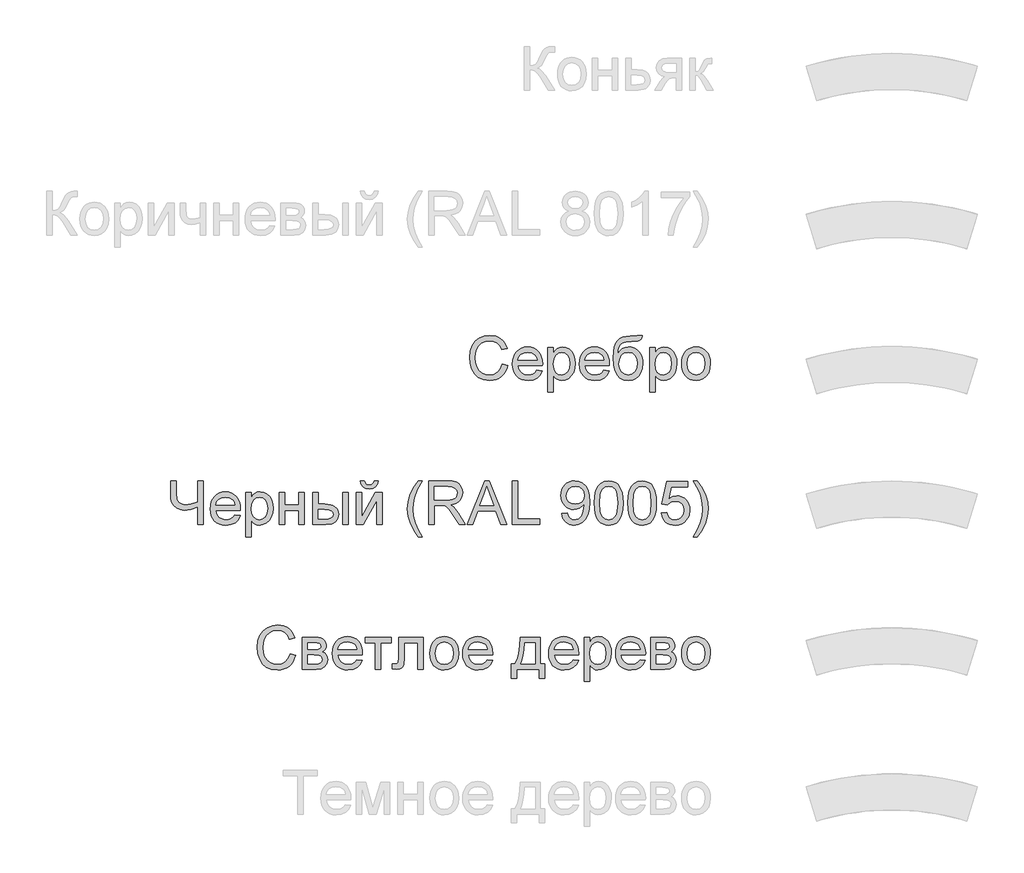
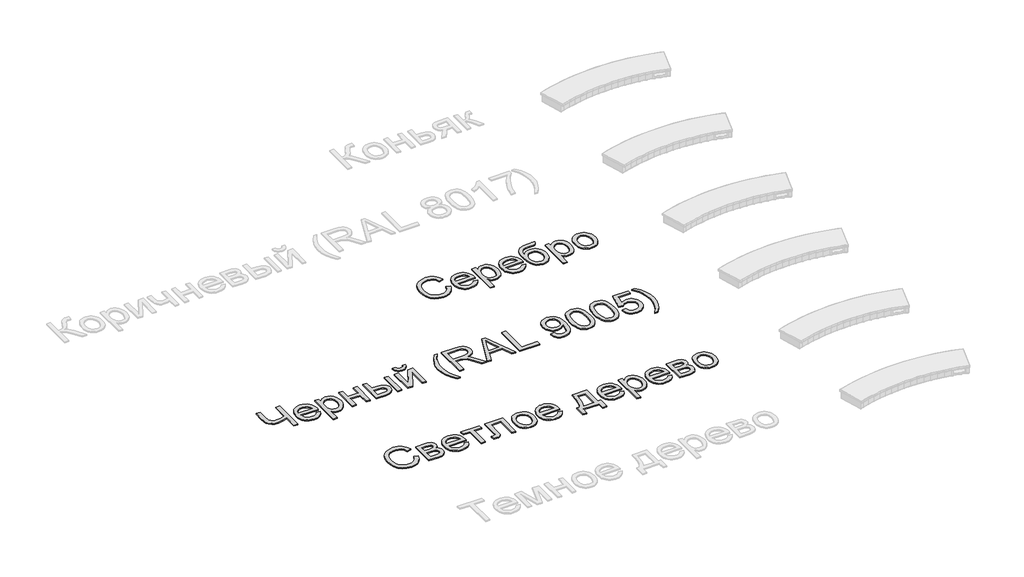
# One storey, part 2 of 9: 3 proxies.
"""IFC4 building model written with IfcOpenShell, lengths in millimetres."""

from ifc_helpers import new_model, si_unit, origin, origin_with_axes, place, context, project, spatial, polyline, outline, extrude, element, save

model = new_model("IFC4")

# Units and contexts
model_context = context("Model", 3, world=origin())
ifc_project = project(units=[si_unit("LENGTHUNIT", "METRE", prefix="MILLI")], contexts=[model_context])

# Site, building, storey
site = spatial("IfcSite", under=ifc_project)
building = spatial("IfcBuilding", under=site)
storey = spatial("IfcBuildingStorey", under=building, Name="Уровень 1", Elevation=0.0)

# Proxies
placement = place(None, origin())
element("IfcBuildingElementProxy", 1, Name="Текст модели 1", ObjectType="Текст модели 1", at=placement, inside=storey, context=model_context, shape_type="SweptSolid", body=[
    extrude(outline(polyline([(-661.3958049, -7619.1831941), (-623.7246886, -7628.8952788), (-631.1788975, -7652.3224641), (-641.1071129, -7672.7927978), (-653.5093347, -7690.3062801), (-668.3855628, -7704.8629108), (-685.4001051, -7716.3063401), (-704.2172692, -7724.4802182), (-724.837055, -7729.384545), (-747.2594626, -7731.0193206), (-790.9546466, -7726.0713078), (-825.6551158, -7711.2272693), (-852.252984, -7687.0022399), (-871.6403652, -7653.9112544), (-883.4769684, -7615.0077334), (-887.4225028, -7573.3450975), (-882.9619336, -7529.4015932), (-869.580226, -7491.4545654), (-847.9763558, -7460.7088276), (-818.8492989, -7438.3691935), (-784.3051795, -7424.7667567), (-746.4501222, -7420.2326111), (-705.1461712, -7426.1003289), (-687.177435, -7433.4349762), (-670.997525, -7443.7034824), (-656.8731556, -7456.6345345), (-645.0710414, -7471.9568196), (-628.4335782, -7509.7750887), (-666.1046945, -7518.7514094), (-679.1645053, -7491.2798214), (-697.0067821, -7472.4350662), (-719.852254, -7461.5365621), (-747.9216502, -7457.9037274), (-780.2768717, -7461.9320352), (-806.8563458, -7474.0169588), (-827.0254762, -7492.8893051), (-840.1496664, -7517.2798814), (-847.3509564, -7544.852637), (-849.7513865, -7573.2715211), (-846.909498, -7608.0731578), (-838.3838328, -7638.165905), (-823.852494, -7662.4001315), (-802.9935849, -7679.6262059), (-777.9868062, -7689.9177047), (-751.011859, -7693.3482043), (-719.5671454, -7688.676103), (-693.3647503, -7674.659799), (-673.581896, -7651.4464451), (-661.3958049, -7619.1831941)])), origin_with_axes(), (0.0, 0.0, 1.0), 10.0),
    extrude(outline(polyline([(-421.6838969, -7660.3859775), (-384.7485446, -7665.0948671), (-398.0566757, -7692.92514), (-419.2926639, -7713.7288668), (-447.9782625, -7726.6967072), (-483.6352249, -7731.0193206), (-507.0095271, -7729.1546188), (-527.8362466, -7723.5605132), (-546.1153832, -7714.2370039), (-561.846937, -7701.1840908), (-574.4974791, -7684.7650575), (-583.5335806, -7665.3431874), (-588.9552416, -7642.9184806), (-590.7624619, -7617.4909369), (-588.9368475, -7591.2011698), (-583.4600042, -7568.0292027), (-574.3319322, -7547.9750354), (-561.5526314, -7531.038668), (-545.8624643, -7517.5833841), (-528.0017935, -7507.9724669), (-507.9706188, -7502.2059167), (-485.7689404, -7500.2837332), (-464.2823326, -7502.2013181), (-444.8512655, -7507.9540728), (-427.475739, -7517.5419973), (-412.1557532, -7530.9650916), (-399.6500646, -7547.8646708), (-390.7174299, -7567.8820499), (-385.3578491, -7591.0172288), (-383.5713222, -7617.2702077), (-383.7920514, -7627.4237508), (-553.0913455, -7627.4237508), (-546.5706372, -7655.6219057), (-531.423096, -7676.3520561), (-509.5617085, -7689.0991673), (-482.8994609, -7693.3482043), (-462.8498921, -7691.3800356), (-445.9641086, -7685.4755296), (-432.2421101, -7675.2668043), (-421.6838969, -7660.3859775)]), holes=[polyline([(-553.0913455, -7589.7526345), (-421.2424385, -7589.7526345), (-426.3376041, -7569.8502185), (-436.3256003, -7555.6131853), (-458.2881554, -7542.3694335), (-485.9160932, -7537.9548496), (-511.3091479, -7541.4773197), (-532.3060128, -7552.04473), (-546.901731, -7568.5166463), (-553.0913455, -7589.7526345)])]), origin_with_axes(), (0.0, 0.0, 1.0), 10.0),
    extrude(outline(polyline([(-345.9002059, -7811.0704428), (-345.9002059, -7504.9926228), (-308.2290896, -7504.9926228), (-308.2290896, -7541.9279751), (-295.9418309, -7523.7086193), (-282.1830443, -7510.6947937), (-266.1433893, -7502.8864984), (-247.0135256, -7500.2837332), (-221.5376974, -7503.925765), (-199.2624426, -7514.8518603), (-181.1258602, -7532.3998314), (-168.0660494, -7555.9074909), (-160.1749806, -7583.6641875), (-157.5446243, -7613.9592698), (-160.5152714, -7646.1765355), (-169.4272128, -7674.9908928), (-183.9953398, -7698.9400106), (-203.9345439, -7716.5615582), (-227.1570949, -7727.40488), (-251.5752623, -7731.0193206), (-268.8933072, -7728.6004965), (-284.3535481, -7721.3440241), (-297.5881028, -7710.3903377), (-308.2290896, -7696.8798715), (-308.2290896, -7811.0704428), (-345.9002059, -7811.0704428)]), holes=[polyline([(-308.2290896, -7617.4173605), (-304.1547965, -7651.1889277), (-291.9319172, -7674.8069518), (-273.8965024, -7688.7128912), (-252.3846027, -7693.3482043), (-230.5232151, -7688.5473443), (-212.0279478, -7674.1447642), (-199.4187924, -7649.6622174), (-195.2157406, -7614.6214573), (-199.3176249, -7581.0338312), (-211.6232776, -7557.0847133), (-229.6311013, -7542.7373155), (-250.8394983, -7537.9548496), (-272.1306688, -7543.0408181), (-290.8282712, -7558.2987239), (-303.878885, -7583.2503202), (-308.2290896, -7617.4173605)])]), origin_with_axes(), (0.0, 0.0, 1.0), 10.0),
    extrude(outline(polyline([(39.7872779, -7660.3859775), (76.7226302, -7665.0948671), (63.414499, -7692.92514), (42.1785108, -7713.7288668), (13.4929123, -7726.6967072), (-22.1640501, -7731.0193206), (-45.5383524, -7729.1546188), (-66.3650718, -7723.5605132), (-84.6442085, -7714.2370039), (-100.3757623, -7701.1840908), (-113.0263044, -7684.7650575), (-122.0624059, -7665.3431874), (-127.4840668, -7642.9184806), (-129.2912871, -7617.4909369), (-127.4656727, -7591.2011698), (-121.9888295, -7568.0292027), (-112.8607575, -7547.9750354), (-100.0814567, -7531.038668), (-84.3912896, -7517.5833841), (-66.5306187, -7507.9724669), (-46.4994441, -7502.2059167), (-24.2977657, -7500.2837332), (-2.8111579, -7502.2013181), (16.6199092, -7507.9540728), (33.9954357, -7517.5419973), (49.3154216, -7530.9650916), (61.8211101, -7547.8646708), (70.7537448, -7567.8820499), (76.1133256, -7591.0172288), (77.8998526, -7617.2702077), (77.6791234, -7627.4237508), (-91.6201708, -7627.4237508), (-85.0994624, -7655.6219057), (-69.9519213, -7676.3520561), (-48.0905337, -7689.0991673), (-21.4282861, -7693.3482043), (-1.3787174, -7691.3800356), (15.5070662, -7685.4755296), (29.2290646, -7675.2668043), (39.7872779, -7660.3859775)]), holes=[polyline([(-91.6201708, -7589.7526345), (40.2287363, -7589.7526345), (35.1335706, -7569.8502185), (25.1455745, -7555.6131853), (3.1830194, -7542.3694335), (-24.4449185, -7537.9548496), (-49.8379732, -7541.4773197), (-70.8348381, -7552.04473), (-85.4305562, -7568.5166463), (-91.6201708, -7589.7526345)])]), origin_with_axes(), (0.0, 0.0, 1.0), 10.0),
    extrude(outline(polyline([(270.9643236, -7420.2326111), (303.9265504, -7420.2326111), (300.3580951, -7438.1392672), (294.2144657, -7449.6263825), (285.6979976, -7456.4230024), (275.0110256, -7460.2581722), (228.8786234, -7462.6126169), (190.5729107, -7464.7831207), (166.7433544, -7471.294632), (152.4879271, -7482.5886093), (142.9046011, -7499.1065109), (137.2668096, -7520.9770955), (134.8479854, -7548.3291218), (149.9955266, -7527.2862717), (167.4791184, -7512.2766863), (187.317155, -7503.2819715), (209.5280305, -7500.2837332), (230.0512473, -7502.1898218), (248.725857, -7507.9080876), (265.5518598, -7517.4385305), (280.5292555, -7530.7811506), (292.8257112, -7547.3749279), (301.6088938, -7566.6588422), (306.8788034, -7588.6328936), (308.63544, -7613.2970822), (305.149758, -7649.2575472), (294.6927123, -7678.1178897), (279.4532007, -7700.5494944), (261.620121, -7717.2237458), (239.0321665, -7727.5704269), (209.5280305, -7731.0193206), (175.526537, -7726.5771455), (150.0415118, -7713.2506203), (131.2887271, -7692.9987164), (117.4839553, -7667.7804056), (108.9858812, -7629.8057867), (106.1531898, -7571.2849583), (107.9397167, -7531.6203814), (113.2992976, -7499.0053433), (122.2319323, -7473.4398439), (134.7376208, -7454.9238832), (150.9497205, -7441.8065908), (171.0015885, -7432.4370963), (194.8932248, -7426.8153995), (222.6246295, -7424.9415006), (264.5631769, -7424.095372), (270.9643236, -7420.2326111)]), holes=[polyline([(270.9643236, -7612.1198598), (266.8808335, -7582.477768), (254.6303631, -7558.7401823), (234.9486763, -7543.1511827), (208.5715373, -7537.9548496), (181.0723581, -7543.4454883), (169.9853145, -7550.3087868), (160.6733015, -7559.9174047), (148.036555, -7585.5679768), (143.8243061, -7618.5945829), (148.4780134, -7650.6095135), (162.4391351, -7674.107976), (183.2244678, -7688.5381472), (208.3508081, -7693.3482043), (233.605907, -7687.7839891), (253.6002935, -7671.0913436), (266.6233161, -7645.2200423), (270.9643236, -7612.1198598)])]), origin_with_axes(), (0.0, 0.0, 1.0), 10.0),
    extrude(outline(polyline([(355.7243353, -7811.0704428), (355.7243353, -7504.9926228), (393.3954516, -7504.9926228), (393.3954516, -7541.9279751), (405.6827103, -7523.7086193), (419.4414969, -7510.6947937), (435.4811519, -7502.8864984), (454.6110156, -7500.2837332), (480.0868438, -7503.925765), (502.3620986, -7514.8518603), (520.498681, -7532.3998314), (533.5584918, -7555.9074909), (541.4495606, -7583.6641875), (544.0799169, -7613.9592698), (541.1092698, -7646.1765355), (532.1973284, -7674.9908928), (517.6292014, -7698.9400106), (497.6899973, -7716.5615582), (474.4674463, -7727.40488), (450.0492789, -7731.0193206), (432.731234, -7728.6004965), (417.2709931, -7721.3440241), (404.0364384, -7710.3903377), (393.3954516, -7696.8798715), (393.3954516, -7811.0704428), (355.7243353, -7811.0704428)]), holes=[polyline([(393.3954516, -7617.4173605), (397.4697447, -7651.1889277), (409.692624, -7674.8069518), (427.7280388, -7688.7128912), (449.2399385, -7693.3482043), (471.1013261, -7688.5473443), (489.5965934, -7674.1447642), (502.2057488, -7649.6622174), (506.4088006, -7614.6214573), (502.3069163, -7581.0338312), (490.0012636, -7557.0847133), (471.9934399, -7542.7373155), (450.7850429, -7537.9548496), (429.4938724, -7543.0408181), (410.79627, -7558.2987239), (397.7456562, -7583.2503202), (393.3954516, -7617.4173605)])]), origin_with_axes(), (0.0, 0.0, 1.0), 10.0),
    extrude(outline(polyline([(577.0421436, -7615.6515269), (579.0792902, -7586.988921), (585.1907298, -7562.2902435), (595.3764626, -7541.5554946), (609.6364884, -7524.7846741), (623.9930833, -7514.0655125), (639.8396002, -7506.4089685), (657.1760392, -7501.815042), (676.0024003, -7500.2837332), (696.7854338, -7502.1484351), (715.577306, -7507.7425407), (732.3780168, -7517.06605), (747.1875664, -7530.1189631), (759.2747892, -7546.4598214), (767.9085198, -7565.6471667), (773.0887581, -7587.680999), (774.8155042, -7612.5613182), (771.7620837, -7650.6187106), (762.601822, -7679.5894177), (747.6014336, -7701.2852584), (727.0276331, -7717.5180514), (702.5910715, -7727.6440033), (676.0024003, -7731.0193206), (654.9158642, -7729.1615165), (635.9492481, -7723.5881043), (619.102552, -7714.2990839), (604.3757759, -7701.2944554), (592.4173118, -7684.7949479), (583.8755517, -7665.0212907), (578.7504957, -7641.9734837), (577.0421436, -7615.6515269)]), holes=[polyline([(614.7132599, -7615.5779505), (619.0726616, -7649.6714144), (632.1508665, -7673.9608232), (651.8325533, -7688.501359), (676.0024003, -7693.3482043), (700.0618828, -7688.4737679), (719.7067814, -7673.8504586), (732.7849863, -7649.2391531), (737.1443879, -7614.4007281), (732.7573951, -7581.3005456), (719.5964168, -7557.3422307), (699.9239271, -7542.8016948), (676.0024003, -7537.9548496), (651.8325533, -7542.7833007), (632.1508665, -7557.2686543), (619.0726616, -7581.5028807), (614.7132599, -7615.5779505)])]), origin_with_axes(), (0.0, 0.0, 1.0), 10.0),
])
element("IfcBuildingElementProxy", 2, Name="Текст модели 1", ObjectType="Текст модели 1", at=placement, inside=storey, context=model_context, shape_type="SweptSolid", body=[
    extrude(outline(polyline([(-2723.8894227, -8726.3104311), (-2761.560539, -8726.3104311), (-2761.560539, -8605.6451367), (-2811.5189139, -8621.9790972), (-2854.855413, -8627.4237508), (-2884.2215932, -8623.6989456), (-2909.9273476, -8612.52453), (-2929.8481577, -8595.6203523), (-2941.8595048, -8574.7062609), (-2947.9019666, -8548.2463484), (-2949.9161205, -8514.7047075), (-2949.9161205, -8424.9415006), (-2912.2450042, -8424.9415006), (-2912.2450042, -8509.6279359), (-2907.7200557, -8550.3616698), (-2902.06387, -8564.4170613), (-2894.1452101, -8574.2648025), (-2874.2244, -8585.8806765), (-2850.6615582, -8589.7526345), (-2807.1963005, -8585.0805331), (-2761.560539, -8571.0642291), (-2761.560539, -8424.9415006), (-2723.8894227, -8424.9415006), (-2723.8894227, -8726.3104311)])), origin_with_axes(), (0.0, 0.0, 1.0), 10.0),
    extrude(outline(polyline([(-2507.7219623, -8660.3859775), (-2470.78661, -8665.0948671), (-2484.0947412, -8692.92514), (-2505.3307294, -8713.7288668), (-2534.0163279, -8726.6967072), (-2569.6732903, -8731.0193206), (-2593.0475926, -8729.1546188), (-2613.874312, -8723.5605132), (-2632.1534487, -8714.2370039), (-2647.8850025, -8701.1840908), (-2660.5355446, -8684.7650575), (-2669.5716461, -8665.3431874), (-2674.993307, -8642.9184806), (-2676.8005273, -8617.4909369), (-2674.9749129, -8591.2011698), (-2669.4980697, -8568.0292027), (-2660.3699977, -8547.9750354), (-2647.5906969, -8531.038668), (-2631.9005298, -8517.5833841), (-2614.0398589, -8507.9724669), (-2594.0086843, -8502.2059167), (-2571.8070059, -8500.2837332), (-2550.3203981, -8502.2013181), (-2530.889331, -8507.9540728), (-2513.5138045, -8517.5419973), (-2498.1938186, -8530.9650916), (-2485.6881301, -8547.8646708), (-2476.7554954, -8567.8820499), (-2471.3959146, -8591.0172288), (-2469.6093876, -8617.2702077), (-2469.8301168, -8627.4237508), (-2639.129411, -8627.4237508), (-2632.6087026, -8655.6219057), (-2617.4611615, -8676.3520561), (-2595.5997739, -8689.0991673), (-2568.9375263, -8693.3482043), (-2548.8879576, -8691.3800356), (-2532.002174, -8685.4755296), (-2518.2801756, -8675.2668043), (-2507.7219623, -8660.3859775)]), holes=[polyline([(-2639.129411, -8589.7526345), (-2507.2805039, -8589.7526345), (-2512.3756696, -8569.8502185), (-2522.3636657, -8555.6131853), (-2544.3262208, -8542.3694335), (-2571.9541587, -8537.9548496), (-2597.3472134, -8541.4773197), (-2618.3440783, -8552.04473), (-2632.9397964, -8568.5166463), (-2639.129411, -8589.7526345)])]), origin_with_axes(), (0.0, 0.0, 1.0), 10.0),
    extrude(outline(polyline([(-2431.9382713, -8811.0704428), (-2431.9382713, -8504.9926228), (-2394.267155, -8504.9926228), (-2394.267155, -8541.9279751), (-2381.9798964, -8523.7086193), (-2368.2211098, -8510.6947937), (-2352.1814548, -8502.8864984), (-2333.051591, -8500.2837332), (-2307.5757628, -8503.925765), (-2285.300508, -8514.8518603), (-2267.1639257, -8532.3998314), (-2254.1041148, -8555.9074909), (-2246.213046, -8583.6641875), (-2243.5826898, -8613.9592698), (-2246.5533369, -8646.1765355), (-2255.4652782, -8674.9908928), (-2270.0334052, -8698.9400106), (-2289.9726094, -8716.5615582), (-2313.1951603, -8727.40488), (-2337.6133278, -8731.0193206), (-2354.9313727, -8728.6004965), (-2370.3916135, -8721.3440241), (-2383.6261683, -8710.3903377), (-2394.267155, -8696.8798715), (-2394.267155, -8811.0704428), (-2431.9382713, -8811.0704428)]), holes=[polyline([(-2394.267155, -8617.4173605), (-2390.1928619, -8651.1889277), (-2377.9699826, -8674.8069518), (-2359.9345678, -8688.7128912), (-2338.4226681, -8693.3482043), (-2316.5612806, -8688.5473443), (-2298.0660133, -8674.1447642), (-2285.4568579, -8649.6622174), (-2281.2538061, -8614.6214573), (-2285.3556903, -8581.0338312), (-2297.6613431, -8557.0847133), (-2315.6691667, -8542.7373155), (-2336.8775638, -8537.9548496), (-2358.1687342, -8543.0408181), (-2376.8663366, -8558.2987239), (-2389.9169504, -8583.2503202), (-2394.267155, -8617.4173605)])]), origin_with_axes(), (0.0, 0.0, 1.0), 10.0),
    extrude(outline(polyline([(-2201.2026839, -8504.9926228), (-2163.5315676, -8504.9926228), (-2163.5315676, -8589.7526345), (-2064.6448873, -8589.7526345), (-2064.6448873, -8504.9926228), (-2026.973771, -8504.9926228), (-2026.973771, -8726.3104311), (-2064.6448873, -8726.3104311), (-2064.6448873, -8627.4237508), (-2163.5315676, -8627.4237508), (-2163.5315676, -8726.3104311), (-2201.2026839, -8726.3104311), (-2201.2026839, -8504.9926228)])), origin_with_axes(), (0.0, 0.0, 1.0), 10.0),
    extrude(outline(polyline([(-1763.2759569, -8504.9926228), (-1725.6048406, -8504.9926228), (-1725.6048406, -8726.3104311), (-1763.2759569, -8726.3104311), (-1763.2759569, -8504.9926228)])), origin_with_axes(), (0.0, 0.0, 1.0), 10.0),
    extrude(outline(polyline([(-1970.4670966, -8504.9926228), (-1932.7959803, -8504.9926228), (-1932.7959803, -8585.0437449), (-1886.2221197, -8585.0437449), (-1845.9666323, -8589.7618315), (-1829.7499341, -8595.6594398), (-1816.1405996, -8603.9160913), (-1805.3731534, -8614.2466776), (-1797.6821205, -8626.36609), (-1793.0675007, -8640.2743287), (-1791.5292941, -8655.9713936), (-1796.6888391, -8682.9279468), (-1812.167474, -8705.6722512), (-1824.0293691, -8714.7014549), (-1838.9768744, -8721.1508861), (-1878.1287158, -8726.3104311), (-1970.4670966, -8726.3104311), (-1970.4670966, -8504.9926228)]), holes=[polyline([(-1932.7959803, -8688.6393148), (-1894.0947944, -8688.6393148), (-1864.0940177, -8686.6619491), (-1844.1364194, -8680.7298519), (-1832.9344127, -8670.6039), (-1829.2004104, -8656.04497), (-1831.9687224, -8643.7393173), (-1840.2736585, -8632.8684043), (-1858.0331618, -8625.253247), (-1889.1651756, -8622.7148612), (-1932.7959803, -8622.7148612), (-1932.7959803, -8688.6393148)])]), origin_with_axes(), (0.0, 0.0, 1.0), 10.0),
    extrude(outline(polyline([(-1546.6670381, -8424.9415006), (-1518.4137009, -8424.9415006), (-1524.4929509, -8449.0653625), (-1536.6974361, -8466.8432599), (-1554.4753335, -8477.7969463), (-1577.2748201, -8481.4481751), (-1602.0148843, -8477.8245374), (-1621.1999303, -8466.9536245), (-1634.3149235, -8449.2033182), (-1640.8448289, -8424.9415006), (-1612.5914917, -8424.9415006), (-1608.6183661, -8437.3483209), (-1601.9964902, -8446.1682918), (-1592.6890757, -8451.4382013), (-1580.6593345, -8453.1948379), (-1567.0844889, -8451.4933836), (-1557.2620396, -8446.389021), (-1550.6401637, -8437.6242324), (-1546.6670381, -8424.9415006)])), origin_with_axes(), (0.0, 0.0, 1.0), 10.0),
    extrude(outline(polyline([(-1669.0981661, -8504.9926228), (-1631.4270498, -8504.9926228), (-1631.4270498, -8673.7768822), (-1538.8679398, -8504.9926228), (-1490.1603637, -8504.9926228), (-1490.1603637, -8726.3104311), (-1527.83148, -8726.3104311), (-1527.83148, -8558.5562413), (-1619.8019788, -8726.3104311), (-1669.0981661, -8726.3104311), (-1669.0981661, -8504.9926228)])), origin_with_axes(), (0.0, 0.0, 1.0), 10.0),
    extrude(outline(polyline([(-1240.5892181, -8811.0704428), (-1269.7806545, -8770.1067826), (-1294.0792602, -8722.7051875), (-1310.4684031, -8671.16492), (-1315.9314507, -8617.7852425), (-1311.8479606, -8570.9722586), (-1299.5974902, -8526.1826257), (-1275.2804903, -8475.4516986), (-1240.5892181, -8424.9415006), (-1212.3358809, -8424.9415006), (-1247.578976, -8484.6119603), (-1268.768979, -8542.4430099), (-1275.8874956, -8580.1325203), (-1278.2603344, -8618.0059717), (-1274.1400561, -8666.2996806), (-1261.7792211, -8714.5749954), (-1241.1778293, -8762.8319162), (-1212.3358809, -8811.0704428), (-1240.5892181, -8811.0704428)])), origin_with_axes(), (0.0, 0.0, 1.0), 10.0),
    extrude(outline(polyline([(-1169.9558751, -8726.3104311), (-1169.9558751, -8424.9415006), (-1040.0935308, -8424.9415006), (-1005.1907265, -8426.9740487), (-979.7976718, -8433.0716927), (-961.2380251, -8444.3288818), (-946.835445, -8461.8400647), (-937.5924099, -8483.5542995), (-934.5113981, -8507.420644), (-939.6157608, -8537.108721), (-954.9288489, -8561.7200264), (-966.528628, -8571.7494093), (-980.9105148, -8579.7646383), (-1018.0206111, -8589.7526345), (-996.6098789, -8605.8658659), (-966.0756733, -8644.6406282), (-915.8229928, -8726.3104311), (-959.6009502, -8726.3104311), (-998.8171709, -8663.8440683), (-1027.1440845, -8622.494132), (-1047.0465005, -8602.9595981), (-1064.9623536, -8595.7858992), (-1086.8145442, -8594.461524), (-1132.2847588, -8594.461524), (-1132.2847588, -8726.3104311), (-1169.9558751, -8726.3104311)]), holes=[polyline([(-1132.2847588, -8556.7904077), (-1047.9662055, -8556.7904077), (-1023.7503731, -8555.4568355), (-1004.9608002, -8551.4561188), (-990.8157375, -8544.5215432), (-980.5334357, -8534.3863942), (-974.2702448, -8522.1267267), (-972.1825145, -8508.8185955), (-976.1648371, -8490.4428899), (-988.1118048, -8475.6356396), (-1008.6672113, -8465.8683726), (-1038.47485, -8462.6126169), (-1132.2847588, -8462.6126169), (-1132.2847588, -8556.7904077)])]), origin_with_axes(), (0.0, 0.0, 1.0), 10.0),
    extrude(outline(polyline([(-903.682887, -8726.3104311), (-783.3854745, -8424.9415006), (-751.3061645, -8424.9415006), (-631.0087521, -8726.3104311), (-670.813584, -8726.3104311), (-705.3209152, -8632.1326403), (-829.4443003, -8632.1326403), (-863.8780551, -8726.3104311), (-903.682887, -8726.3104311)]), holes=[polyline([(-815.6119373, -8594.461524), (-719.0797018, -8594.461524), (-746.229393, -8520.3700902), (-767.3458195, -8462.6126169), (-786.1078013, -8513.8953671), (-815.6119373, -8594.461524)])]), origin_with_axes(), (0.0, 0.0, 1.0), 10.0),
    extrude(outline(polyline([(-590.7624619, -8726.3104311), (-590.7624619, -8424.9415006), (-553.0913455, -8424.9415006), (-553.0913455, -8688.6393148), (-402.4068803, -8688.6393148), (-402.4068803, -8726.3104311), (-590.7624619, -8726.3104311)])), origin_with_axes(), (0.0, 0.0, 1.0), 10.0),
    extrude(outline(polyline([(-251.7224151, -8650.9681985), (-214.0512988, -8646.2593089), (-207.6133639, -8667.6424499), (-197.128727, -8682.2013799), (-182.8549056, -8690.5614982), (-165.049417, -8693.3482043), (-149.0741414, -8691.5547796), (-134.5519996, -8686.1745054), (-122.4854702, -8677.795993), (-113.8770315, -8667.0078535), (-101.5529847, -8634.2663559), (-96.1083311, -8590.5619749), (-96.3290603, -8583.204335), (-109.3796741, -8599.1336253), (-126.4585957, -8611.7519778), (-146.3334205, -8619.9741404), (-167.7717438, -8622.7148612), (-185.6669036, -8621.0409982), (-202.1227251, -8616.0194089), (-217.1392083, -8607.6500935), (-230.7163532, -8595.933052), (-241.9666444, -8581.4798881), (-250.0025668, -8564.9022057), (-254.8241202, -8546.2000048), (-256.4313046, -8525.3732853), (-254.7459452, -8503.8521886), (-249.6898671, -8484.5383839), (-241.2630701, -8467.4318711), (-229.4655544, -8452.5326503), (-215.1296529, -8440.4615223), (-199.0876986, -8431.839288), (-181.3396916, -8426.6659475), (-161.8856319, -8424.9415006), (-133.7886445, -8428.877838), (-108.2116488, -8440.68685), (-86.8193108, -8459.7799256), (-71.2762965, -8485.5684534), (-61.8125321, -8521.2162188), (-58.657944, -8569.8870067), (-61.8033351, -8621.4916536), (-71.2395083, -8661.3792589), (-86.8836901, -8691.3524445), (-108.6531072, -8713.2138321), (-135.6096604, -8726.5679485), (-166.8152506, -8731.0193206), (-199.0233193, -8725.7678051), (-224.7198767, -8710.0132587), (-242.6909121, -8684.7489627), (-251.7224151, -8650.9681985)]), holes=[polyline([(-96.3290603, -8524.4903685), (-100.3941564, -8498.9593581), (-112.5894445, -8479.3144595), (-131.5169732, -8466.7880776), (-155.7787908, -8462.6126169), (-180.9419192, -8467.1099743), (-201.1018526, -8480.6020465), (-214.3456044, -8501.2494235), (-218.7601883, -8527.2126953), (-214.5847277, -8550.4904285), (-202.0583458, -8568.9673017), (-182.3950531, -8581.0246341), (-156.8088603, -8585.0437449), (-132.7401808, -8581.0246341), (-113.3619967, -8568.9673017), (-100.5872944, -8549.8098468), (-96.3290603, -8524.4903685)])]), origin_with_axes(), (0.0, 0.0, 1.0), 10.0),
    extrude(outline(polyline([(-25.6957173, -8578.053987), (-22.9274052, -8529.8154604), (-14.6224692, -8491.3442008), (-0.8636826, -8462.0515969), (18.2661812, -8441.3490376), (42.9050778, -8429.0433849), (73.190963, -8424.9415006), (96.4043169, -8427.3695218), (117.1896497, -8434.6535853), (134.5720739, -8446.5085826), (147.5767025, -8462.6494051), (157.3991517, -8482.9380972), (165.2350382, -8507.236703), (170.3669921, -8538.0928053), (172.0776433, -8578.053987), (169.3369225, -8626.0166021), (161.1147599, -8664.3958913), (147.4387467, -8693.7160863), (128.3364741, -8714.501419), (103.6423952, -8726.8898452), (73.190963, -8731.0193206), (52.4424185, -8729.2258959), (34.0483188, -8723.8456217), (18.0086638, -8714.8784981), (4.3234535, -8702.324525), (-8.8099337, -8679.6308044), (-18.1909246, -8651.3544746), (-23.8195191, -8617.4955354), (-25.6957173, -8578.053987)]), holes=[polyline([(11.975399, -8577.9804106), (16.389983, -8637.237003), (21.9082129, -8657.5050017), (29.6337348, -8671.532802), (49.3522098, -8687.8943537), (73.190963, -8693.3482043), (97.0297163, -8687.8759596), (116.7481913, -8671.4592256), (124.4737132, -8657.4084326), (129.9919431, -8637.1450325), (134.406527, -8577.9804106), (130.1390959, -8520.0573905), (124.804807, -8499.8560704), (117.3368025, -8485.494877), (97.6551157, -8468.333182), (72.7495046, -8462.6126169), (49.1682688, -8467.6526003), (30.222346, -8482.7725503), (22.2393067, -8498.4075351), (16.5371358, -8519.4871734), (11.975399, -8577.9804106)])]), origin_with_axes(), (0.0, 0.0, 1.0), 10.0),
    extrude(outline(polyline([(205.0398701, -8578.053987), (207.8081821, -8529.8154604), (216.1131182, -8491.3442008), (229.8719048, -8462.0515969), (249.0017685, -8441.3490376), (273.6406652, -8429.0433849), (303.9265504, -8424.9415006), (327.1399043, -8427.3695218), (347.925237, -8434.6535853), (365.3076613, -8446.5085826), (378.3122898, -8462.6494051), (388.1347391, -8482.9380972), (395.9706256, -8507.236703), (401.1025794, -8538.0928053), (402.8132307, -8578.053987), (400.0725099, -8626.0166021), (391.8503473, -8664.3958913), (378.1743341, -8693.7160863), (359.0720615, -8714.501419), (334.3779826, -8726.8898452), (303.9265504, -8731.0193206), (283.1780059, -8729.2258959), (264.7839061, -8723.8456217), (248.7442511, -8714.8784981), (235.0590409, -8702.324525), (221.9256537, -8679.6308044), (212.5446628, -8651.3544746), (206.9160683, -8617.4955354), (205.0398701, -8578.053987)]), holes=[polyline([(242.7109864, -8577.9804106), (247.1255704, -8637.237003), (252.6438003, -8657.5050017), (260.3693222, -8671.532802), (280.0877971, -8687.8943537), (303.9265504, -8693.3482043), (327.7653037, -8687.8759596), (347.4837786, -8671.4592256), (355.2093005, -8657.4084326), (360.7275305, -8637.1450325), (365.1421144, -8577.9804106), (360.8746833, -8520.0573905), (355.5403943, -8499.8560704), (348.0723898, -8485.494877), (328.3907031, -8468.333182), (303.485092, -8462.6126169), (279.9038561, -8467.6526003), (260.9579334, -8482.7725503), (252.9748941, -8498.4075351), (247.2727232, -8519.4871734), (242.7109864, -8577.9804106)])]), origin_with_axes(), (0.0, 0.0, 1.0), 10.0),
    extrude(outline(polyline([(435.7754575, -8646.2593089), (473.4465738, -8641.5504194), (480.3627553, -8664.165965), (492.4292847, -8680.3619699), (509.5909798, -8690.1016457), (531.7926582, -8693.3482043), (558.7951967, -8688.8324528), (579.0287064, -8675.2851984), (591.6654529, -8654.2699394), (595.8777018, -8627.3501744), (591.9321674, -8602.0031049), (580.0955642, -8582.6157238), (560.2759217, -8570.310071), (532.3812694, -8566.2081868), (514.1067313, -8567.8452617), (499.3086781, -8572.7564863), (478.1554633, -8589.7526345), (440.484347, -8585.0437449), (473.4465738, -8429.6503902), (619.4221495, -8429.6503902), (619.4221495, -8467.3215065), (503.907203, -8467.3215065), (487.7939716, -8550.3156846), (514.7045396, -8533.981724), (542.9026945, -8528.5370705), (561.2485097, -8530.2247291), (578.0998044, -8535.2877051), (593.4565784, -8543.7259984), (607.3188318, -8555.5396089), (618.7944508, -8570.0065684), (626.9913215, -8586.4049083), (631.909444, -8604.7346287), (633.5488181, -8624.9957296), (627.6443121, -8662.6668459), (620.2636795, -8679.460659), (609.930794, -8694.8933087), (594.2774151, -8710.6984389), (576.012074, -8721.9878176), (555.1347708, -8728.7614449), (531.6455054, -8731.0193206), (494.6457738, -8725.2159821), (478.967103, -8717.9618091), (465.1692289, -8707.8059667), (453.6890114, -8695.2542929), (444.9633103, -8680.8126253), (435.7754575, -8646.2593089)])), origin_with_axes(), (0.0, 0.0, 1.0), 10.0),
    extrude(outline(polyline([(685.346603, -8811.0704428), (657.0932658, -8811.0704428), (685.9352142, -8762.8319162), (706.5366059, -8714.5749954), (718.897441, -8666.2996806), (723.0177193, -8618.0059717), (720.6448805, -8580.4084318), (713.5263638, -8543.1051975), (704.5316491, -8513.5458792), (692.5570901, -8485.2005714), (657.0932658, -8424.9415006), (685.346603, -8424.9415006), (720.0378752, -8475.4516986), (744.354875, -8526.1826257), (756.6053455, -8570.9722586), (760.6888356, -8617.7852425), (755.1981968, -8671.16492), (738.7262805, -8722.7051875), (714.4000836, -8770.1067826), (685.346603, -8811.0704428)])), origin_with_axes(), (0.0, 0.0, 1.0), 10.0),
])
element("IfcBuildingElementProxy", 3, Name="Текст модели 1", ObjectType="Текст модели 1", at=placement, inside=storey, context=model_context, shape_type="SweptSolid", body=[
    extrude(outline(polyline([(-2125.8604513, -9619.1831941), (-2088.189335, -9628.8952788), (-2095.6435439, -9652.3224641), (-2105.5717593, -9672.7927978), (-2117.9739811, -9690.3062801), (-2132.8502092, -9704.8629108), (-2149.8647515, -9716.3063401), (-2168.6819156, -9724.4802182), (-2189.3017014, -9729.384545), (-2211.724109, -9731.0193206), (-2255.419293, -9726.0713078), (-2290.1197622, -9711.2272693), (-2316.7176304, -9687.0022399), (-2336.1050116, -9653.9112544), (-2347.9416148, -9615.0077334), (-2351.8871492, -9573.3450975), (-2347.42658, -9529.4015932), (-2334.0448724, -9491.4545654), (-2312.4410022, -9460.7088276), (-2283.3139453, -9438.3691935), (-2248.7698259, -9424.7667567), (-2210.9147686, -9420.2326111), (-2169.6108176, -9426.1003289), (-2151.6420814, -9433.4349762), (-2135.4621714, -9443.7034824), (-2121.337802, -9456.6345345), (-2109.5356878, -9471.9568196), (-2092.8982246, -9509.7750887), (-2130.5693409, -9518.7514094), (-2143.6291517, -9491.2798214), (-2161.4714285, -9472.4350662), (-2184.3169004, -9461.5365621), (-2212.3862966, -9457.9037274), (-2244.7415181, -9461.9320352), (-2271.3209922, -9474.0169588), (-2291.4901226, -9492.8893051), (-2304.6143128, -9517.2798814), (-2311.8156028, -9544.852637), (-2314.2160329, -9573.2715211), (-2311.3741444, -9608.0731578), (-2302.8484792, -9638.165905), (-2288.3171404, -9662.4001315), (-2267.4582313, -9679.6262059), (-2242.4514526, -9689.9177047), (-2215.4765054, -9693.3482043), (-2184.0317918, -9688.676103), (-2157.8293967, -9674.659799), (-2138.0465424, -9651.4464451), (-2125.8604513, -9619.1831941)])), origin_with_axes(), (0.0, 0.0, 1.0), 10.0),
    extrude(outline(polyline([(-2041.1004396, -9504.9926228), (-1958.1062615, -9504.9926228), (-1931.4256198, -9506.2526186), (-1912.5992587, -9510.0326061), (-1898.7485016, -9517.1695168), (-1886.9946719, -9528.5002823), (-1878.9656473, -9543.2615473), (-1876.2893058, -9560.6899569), (-1877.9079866, -9574.733852), (-1882.7640289, -9586.8463667), (-1890.8758269, -9597.0826832), (-1902.2617747, -9605.4979839), (-1888.319047, -9613.3246733), (-1876.9514934, -9625.9154346), (-1869.3915184, -9642.2769863), (-1866.8715267, -9661.4160471), (-1873.2542793, -9690.1292369), (-1888.4294116, -9710.3443525), (-1912.4521059, -9722.3189114), (-1945.3775445, -9726.3104311), (-2041.1004396, -9726.3104311), (-2041.1004396, -9504.9926228)]), holes=[polyline([(-2003.4293233, -9688.6393148), (-1957.2233447, -9688.6393148), (-1932.0418222, -9686.9378605), (-1916.2412905, -9681.8334979), (-1907.7616105, -9672.5536745), (-1904.542643, -9658.3258384), (-1906.1521268, -9648.8988622), (-1910.9805779, -9640.189256), (-1918.3934001, -9633.3742421), (-1927.7559969, -9629.6310427), (-1960.9021647, -9627.4237508), (-2003.4293233, -9627.4237508), (-2003.4293233, -9688.6393148)]), polyline([(-2003.4293233, -9589.7526345), (-1966.1996654, -9589.7526345), (-1935.4815188, -9587.8396481), (-1920.5455098, -9580.1877026), (-1915.606694, -9573.8601323), (-1913.9604221, -9566.3553396), (-1916.8482958, -9555.1165446), (-1925.5119168, -9547.8876634), (-1941.1652956, -9543.9697202), (-1965.022443, -9542.6637391), (-2003.4293233, -9542.6637391), (-2003.4293233, -9589.7526345)])]), origin_with_axes(), (0.0, 0.0, 1.0), 10.0),
    extrude(outline(polyline([(-1664.830735, -9660.3859775), (-1627.8953827, -9665.0948671), (-1641.2035138, -9692.92514), (-1662.439502, -9713.7288668), (-1691.1251006, -9726.6967072), (-1726.782063, -9731.0193206), (-1750.1563652, -9729.1546188), (-1770.9830847, -9723.5605132), (-1789.2622213, -9714.2370039), (-1804.9937751, -9701.1840908), (-1817.6443172, -9684.7650575), (-1826.6804188, -9665.3431874), (-1832.1020797, -9642.9184806), (-1833.9093, -9617.4909369), (-1832.0836856, -9591.2011698), (-1826.6068424, -9568.0292027), (-1817.4787703, -9547.9750354), (-1804.6994695, -9531.038668), (-1789.0093024, -9517.5833841), (-1771.1486316, -9507.9724669), (-1751.1174569, -9502.2059167), (-1728.9157785, -9500.2837332), (-1707.4291708, -9502.2013181), (-1687.9981036, -9507.9540728), (-1670.6225771, -9517.5419973), (-1655.3025913, -9530.9650916), (-1642.7969027, -9547.8646708), (-1633.864268, -9567.8820499), (-1628.5046872, -9591.0172288), (-1626.7181603, -9617.2702077), (-1626.9388895, -9627.4237508), (-1796.2381836, -9627.4237508), (-1789.7174753, -9655.6219057), (-1774.5699341, -9676.3520561), (-1752.7085466, -9689.0991673), (-1726.046299, -9693.3482043), (-1705.9967302, -9691.3800356), (-1689.1109467, -9685.4755296), (-1675.3889482, -9675.2668043), (-1664.830735, -9660.3859775)]), holes=[polyline([(-1796.2381836, -9589.7526345), (-1664.3892766, -9589.7526345), (-1669.4844422, -9569.8502185), (-1679.4724384, -9555.6131853), (-1701.4349935, -9542.3694335), (-1729.0629313, -9537.9548496), (-1754.455986, -9541.4773197), (-1775.4528509, -9552.04473), (-1790.0485691, -9568.5166463), (-1796.2381836, -9589.7526345)])]), origin_with_axes(), (0.0, 0.0, 1.0), 10.0),
    extrude(outline(polyline([(-1607.8826021, -9504.9926228), (-1428.9447997, -9504.9926228), (-1428.9447997, -9542.6637391), (-1499.5781427, -9542.6637391), (-1499.5781427, -9726.3104311), (-1537.249259, -9726.3104311), (-1537.249259, -9542.6637391), (-1607.8826021, -9542.6637391), (-1607.8826021, -9504.9926228)])), origin_with_axes(), (0.0, 0.0, 1.0), 10.0),
    extrude(outline(polyline([(-1377.1470147, -9504.9926228), (-1207.6269914, -9504.9926228), (-1207.6269914, -9726.0897019), (-1245.2981077, -9726.0897019), (-1245.2981077, -9542.6637391), (-1339.4758984, -9542.6637391), (-1339.4758984, -9648.2458717), (-1342.0142842, -9696.9534479), (-1346.769159, -9707.9807107), (-1355.9570118, -9717.5180514), (-1369.8997394, -9724.1123362), (-1388.9192386, -9726.3104311), (-1419.5270206, -9724.3974447), (-1419.5270206, -9688.6393148), (-1402.6780252, -9688.6393148), (-1385.6450888, -9686.3216582), (-1378.8392719, -9678.9640183), (-1377.1470147, -9646.1121561), (-1377.1470147, -9504.9926228)])), origin_with_axes(), (0.0, 0.0, 1.0), 10.0),
    extrude(outline(polyline([(-1160.538096, -9615.6515269), (-1158.5009494, -9586.988921), (-1152.3895098, -9562.2902435), (-1142.203777, -9541.5554946), (-1127.9437512, -9524.7846741), (-1113.5871563, -9514.0655125), (-1097.7406394, -9506.4089685), (-1080.4042004, -9501.815042), (-1061.5778393, -9500.2837332), (-1040.7948058, -9502.1484351), (-1022.0029337, -9507.7425407), (-1005.2022228, -9517.06605), (-990.3926732, -9530.1189631), (-978.3054504, -9546.4598214), (-969.6717198, -9565.6471667), (-964.4914815, -9587.680999), (-962.7647354, -9612.5613182), (-965.8181559, -9650.6187106), (-974.9784176, -9679.5894177), (-989.978806, -9701.2852584), (-1010.5526066, -9717.5180514), (-1034.9891681, -9727.6440033), (-1061.5778393, -9731.0193206), (-1082.6643754, -9729.1615165), (-1101.6309915, -9723.5881043), (-1118.4776876, -9714.2990839), (-1133.2044637, -9701.2944554), (-1145.1629278, -9684.7949479), (-1153.7046879, -9665.0212907), (-1158.829744, -9641.9734837), (-1160.538096, -9615.6515269)]), holes=[polyline([(-1122.8669797, -9615.5779505), (-1118.507578, -9649.6714144), (-1105.4293731, -9673.9608232), (-1085.7476864, -9688.501359), (-1061.5778393, -9693.3482043), (-1037.5183568, -9688.4737679), (-1017.8734583, -9673.8504586), (-1004.7952533, -9649.2391531), (-1000.4358517, -9614.4007281), (-1004.8228445, -9581.3005456), (-1017.9838229, -9557.3422307), (-1037.6563125, -9542.8016948), (-1061.5778393, -9537.9548496), (-1085.7476864, -9542.7833007), (-1105.4293731, -9557.2686543), (-1118.507578, -9581.5028807), (-1122.8669797, -9615.5779505)])]), origin_with_axes(), (0.0, 0.0, 1.0), 10.0),
    extrude(outline(polyline([(-765.4328332, -9660.3859775), (-728.4974808, -9665.0948671), (-741.805612, -9692.92514), (-763.0416002, -9713.7288668), (-791.7271988, -9726.6967072), (-827.3841612, -9731.0193206), (-850.7584634, -9729.1546188), (-871.5851829, -9723.5605132), (-889.8643195, -9714.2370039), (-905.5958733, -9701.1840908), (-918.2464154, -9684.7650575), (-927.2825169, -9665.3431874), (-932.7041778, -9642.9184806), (-934.5113981, -9617.4909369), (-932.6857837, -9591.2011698), (-927.2089405, -9568.0292027), (-918.0808685, -9547.9750354), (-905.3015677, -9531.038668), (-889.6114006, -9517.5833841), (-871.7507298, -9507.9724669), (-851.7195551, -9502.2059167), (-829.5178767, -9500.2837332), (-808.0312689, -9502.2013181), (-788.6002018, -9507.9540728), (-771.2246753, -9517.5419973), (-755.9046895, -9530.9650916), (-743.3990009, -9547.8646708), (-734.4663662, -9567.8820499), (-729.1067854, -9591.0172288), (-727.3202585, -9617.2702077), (-727.5409877, -9627.4237508), (-896.8402818, -9627.4237508), (-890.3195735, -9655.6219057), (-875.1720323, -9676.3520561), (-853.3106448, -9689.0991673), (-826.6483972, -9693.3482043), (-806.5988284, -9691.3800356), (-789.7130448, -9685.4755296), (-775.9910464, -9675.2668043), (-765.4328332, -9660.3859775)]), holes=[polyline([(-896.8402818, -9589.7526345), (-764.9913748, -9589.7526345), (-770.0865404, -9569.8502185), (-780.0745366, -9555.6131853), (-802.0370917, -9542.3694335), (-829.6650295, -9537.9548496), (-855.0580842, -9541.4773197), (-876.0549491, -9552.04473), (-890.6506673, -9568.5166463), (-896.8402818, -9589.7526345)])]), origin_with_axes(), (0.0, 0.0, 1.0), 10.0),
    extrude(outline(polyline([(-538.9646769, -9504.9926228), (-397.6979908, -9504.9926228), (-397.6979908, -9688.6393148), (-369.4446536, -9688.6393148), (-369.4446536, -9787.5259951), (-407.1157699, -9787.5259951), (-407.1157699, -9726.3104311), (-562.5091246, -9726.3104311), (-562.5091246, -9787.5259951), (-600.1802409, -9787.5259951), (-600.1802409, -9688.6393148), (-576.6357932, -9688.6393148), (-559.5200834, -9657.709636), (-547.5363274, -9616.7919611), (-540.6845253, -9565.88629), (-538.9646769, -9504.9926228)]), holes=[polyline([(-506.0024502, -9542.6637391), (-509.0926589, -9588.7869442), (-514.831618, -9628.4906086), (-523.2193275, -9661.7747321), (-534.2557874, -9688.6393148), (-435.3691071, -9688.6393148), (-435.3691071, -9542.6637391), (-506.0024502, -9542.6637391)])]), origin_with_axes(), (0.0, 0.0, 1.0), 10.0),
    extrude(outline(polyline([(-172.1127513, -9660.3859775), (-135.177399, -9665.0948671), (-148.4855302, -9692.92514), (-169.7215184, -9713.7288668), (-198.4071169, -9726.6967072), (-234.0640793, -9731.0193206), (-257.4383816, -9729.1546188), (-278.2651011, -9723.5605132), (-296.5442377, -9714.2370039), (-312.2757915, -9701.1840908), (-324.9263336, -9684.7650575), (-333.9624351, -9665.3431874), (-339.384096, -9642.9184806), (-341.1913163, -9617.4909369), (-339.3657019, -9591.2011698), (-333.8888587, -9568.0292027), (-324.7607867, -9547.9750354), (-311.9814859, -9531.038668), (-296.2913188, -9517.5833841), (-278.4306479, -9507.9724669), (-258.3994733, -9502.2059167), (-236.1977949, -9500.2837332), (-214.7111871, -9502.2013181), (-195.28012, -9507.9540728), (-177.9045935, -9517.5419973), (-162.5846077, -9530.9650916), (-150.0789191, -9547.8646708), (-141.1462844, -9567.8820499), (-135.7867036, -9591.0172288), (-134.0001766, -9617.2702077), (-134.2209058, -9627.4237508), (-303.5202, -9627.4237508), (-296.9994917, -9655.6219057), (-281.8519505, -9676.3520561), (-259.9905629, -9689.0991673), (-233.3283153, -9693.3482043), (-213.2787466, -9691.3800356), (-196.392963, -9685.4755296), (-182.6709646, -9675.2668043), (-172.1127513, -9660.3859775)]), holes=[polyline([(-303.5202, -9589.7526345), (-171.6712929, -9589.7526345), (-176.7664586, -9569.8502185), (-186.7544548, -9555.6131853), (-208.7170099, -9542.3694335), (-236.3449477, -9537.9548496), (-261.7380024, -9541.4773197), (-282.7348673, -9552.04473), (-297.3305855, -9568.5166463), (-303.5202, -9589.7526345)])]), origin_with_axes(), (0.0, 0.0, 1.0), 10.0),
    extrude(outline(polyline([(-96.3290603, -9811.0704428), (-96.3290603, -9504.9926228), (-58.657944, -9504.9926228), (-58.657944, -9541.9279751), (-46.3706854, -9523.7086193), (-32.6118988, -9510.6947937), (-16.5722438, -9502.8864984), (2.55762, -9500.2837332), (28.0334481, -9503.925765), (50.3087029, -9514.8518603), (68.4452853, -9532.3998314), (81.5050961, -9555.9074909), (89.3961649, -9583.6641875), (92.0265212, -9613.9592698), (89.0558741, -9646.1765355), (80.1439327, -9674.9908928), (65.5758057, -9698.9400106), (45.6366016, -9716.5615582), (22.4140507, -9727.40488), (-2.0041168, -9731.0193206), (-19.3221617, -9728.6004965), (-34.7824025, -9721.3440241), (-48.0169573, -9710.3903377), (-58.657944, -9696.8798715), (-58.657944, -9811.0704428), (-96.3290603, -9811.0704428)]), holes=[polyline([(-58.657944, -9617.4173605), (-54.5836509, -9651.1889277), (-42.3607716, -9674.8069518), (-24.3253568, -9688.7128912), (-2.8134572, -9693.3482043), (19.0479304, -9688.5473443), (37.5431977, -9674.1447642), (50.1523531, -9649.6622174), (54.3554049, -9614.6214573), (50.2535206, -9581.0338312), (37.9478679, -9557.0847133), (19.9400442, -9542.7373155), (-1.2683528, -9537.9548496), (-22.5595233, -9543.0408181), (-41.2571257, -9558.2987239), (-54.3077394, -9583.2503202), (-58.657944, -9617.4173605)])]), origin_with_axes(), (0.0, 0.0, 1.0), 10.0),
    extrude(outline(polyline([(289.3584234, -9660.3859775), (326.2937757, -9665.0948671), (312.9856445, -9692.92514), (291.7496564, -9713.7288668), (263.0640578, -9726.6967072), (227.4070954, -9731.0193206), (204.0327932, -9729.1546188), (183.2060737, -9723.5605132), (164.9269371, -9714.2370039), (149.1953832, -9701.1840908), (136.5448411, -9684.7650575), (127.5087396, -9665.3431874), (122.0870787, -9642.9184806), (120.2798584, -9617.4909369), (122.1054728, -9591.2011698), (127.582316, -9568.0292027), (136.710388, -9547.9750354), (149.4896888, -9531.038668), (165.1798559, -9517.5833841), (183.0405268, -9507.9724669), (203.0717014, -9502.2059167), (225.2733798, -9500.2837332), (246.7599876, -9502.2013181), (266.1910548, -9507.9540728), (283.5665812, -9517.5419973), (298.8865671, -9530.9650916), (311.3922557, -9547.8646708), (320.3248904, -9567.8820499), (325.6844712, -9591.0172288), (327.4709981, -9617.2702077), (327.2502689, -9627.4237508), (157.9509747, -9627.4237508), (164.4716831, -9655.6219057), (179.6192242, -9676.3520561), (201.4806118, -9689.0991673), (228.1428594, -9693.3482043), (248.1924281, -9691.3800356), (265.0782117, -9685.4755296), (278.8002101, -9675.2668043), (289.3584234, -9660.3859775)]), holes=[polyline([(157.9509747, -9589.7526345), (289.7998818, -9589.7526345), (284.7047162, -9569.8502185), (274.71672, -9555.6131853), (252.7541649, -9542.3694335), (225.126227, -9537.9548496), (199.7331723, -9541.4773197), (178.7363075, -9552.04473), (164.1405893, -9568.5166463), (157.9509747, -9589.7526345)])]), origin_with_axes(), (0.0, 0.0, 1.0), 10.0),
    extrude(outline(polyline([(365.1421144, -9504.9926228), (448.1362925, -9504.9926228), (474.8169342, -9506.2526186), (493.6432953, -9510.0326061), (507.4940524, -9517.1695168), (519.2478822, -9528.5002823), (527.2769067, -9543.2615473), (529.9532483, -9560.6899569), (528.3345675, -9574.733852), (523.4785251, -9586.8463667), (515.3667271, -9597.0826832), (503.9807794, -9605.4979839), (517.923507, -9613.3246733), (529.2910607, -9625.9154346), (536.8510357, -9642.2769863), (539.3710273, -9661.4160471), (532.9882747, -9690.1292369), (517.8131424, -9710.3443525), (493.7904481, -9722.3189114), (460.8650096, -9726.3104311), (365.1421144, -9726.3104311), (365.1421144, -9504.9926228)]), holes=[polyline([(402.8132307, -9589.7526345), (440.0428886, -9589.7526345), (470.7610352, -9587.8396481), (485.6970442, -9580.1877026), (490.63586, -9573.8601323), (492.2821319, -9566.3553396), (489.3942583, -9555.1165446), (480.7306373, -9547.8876634), (465.0772584, -9543.9697202), (441.220111, -9542.6637391), (402.8132307, -9542.6637391), (402.8132307, -9589.7526345)]), polyline([(402.8132307, -9688.6393148), (449.0192093, -9688.6393148), (474.2007319, -9686.9378605), (490.0012636, -9681.8334979), (498.4809436, -9672.5536745), (501.699911, -9658.3258384), (500.0904273, -9648.8988622), (495.2619761, -9640.189256), (487.8491539, -9633.3742421), (478.4865571, -9629.6310427), (445.3403894, -9627.4237508), (402.8132307, -9627.4237508), (402.8132307, -9688.6393148)])]), origin_with_axes(), (0.0, 0.0, 1.0), 10.0),
    extrude(outline(polyline([(577.0421436, -9615.6515269), (579.0792902, -9586.988921), (585.1907298, -9562.2902435), (595.3764626, -9541.5554946), (609.6364884, -9524.7846741), (623.9930833, -9514.0655125), (639.8396002, -9506.4089685), (657.1760392, -9501.815042), (676.0024003, -9500.2837332), (696.7854338, -9502.1484351), (715.577306, -9507.7425407), (732.3780168, -9517.06605), (747.1875664, -9530.1189631), (759.2747892, -9546.4598214), (767.9085198, -9565.6471667), (773.0887581, -9587.680999), (774.8155042, -9612.5613182), (771.7620837, -9650.6187106), (762.601822, -9679.5894177), (747.6014336, -9701.2852584), (727.0276331, -9717.5180514), (702.5910715, -9727.6440033), (676.0024003, -9731.0193206), (654.9158642, -9729.1615165), (635.9492481, -9723.5881043), (619.102552, -9714.2990839), (604.3757759, -9701.2944554), (592.4173118, -9684.7949479), (583.8755517, -9665.0212907), (578.7504957, -9641.9734837), (577.0421436, -9615.6515269)]), holes=[polyline([(614.7132599, -9615.5779505), (619.0726616, -9649.6714144), (632.1508665, -9673.9608232), (651.8325533, -9688.501359), (676.0024003, -9693.3482043), (700.0618828, -9688.4737679), (719.7067814, -9673.8504586), (732.7849863, -9649.2391531), (737.1443879, -9614.4007281), (732.7573951, -9581.3005456), (719.5964168, -9557.3422307), (699.9239271, -9542.8016948), (676.0024003, -9537.9548496), (651.8325533, -9542.7833007), (632.1508665, -9557.2686543), (619.0726616, -9581.5028807), (614.7132599, -9615.5779505)])]), origin_with_axes(), (0.0, 0.0, 1.0), 10.0),
])

save(model, "model.ifc")
